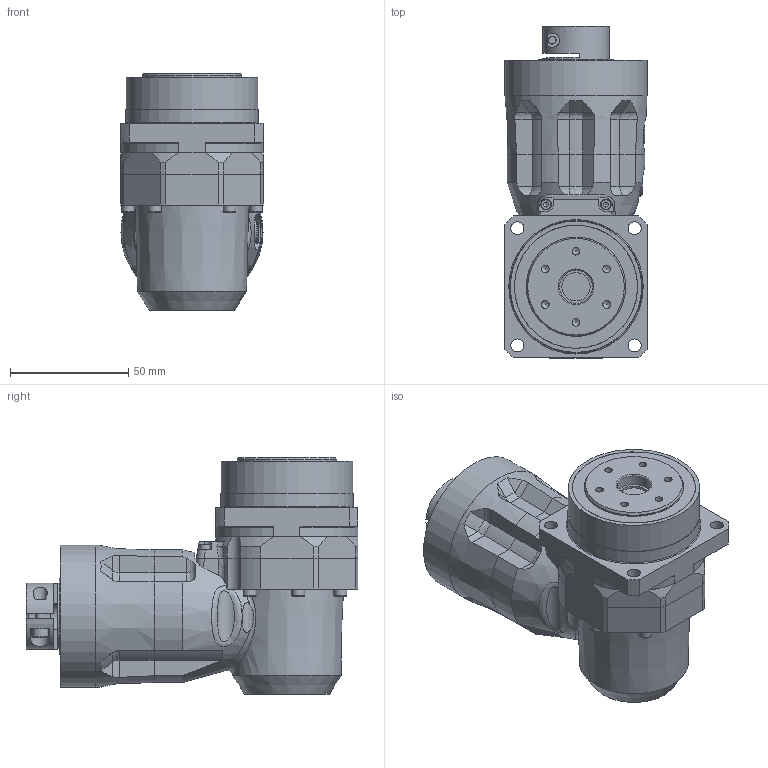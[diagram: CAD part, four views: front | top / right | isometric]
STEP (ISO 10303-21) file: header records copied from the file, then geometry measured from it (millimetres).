
FILE_DESCRIPTION(/* description */ ('ANFX-PK110F-2-E11G'),/* implementation_level */ '2;1');
FILE_NAME(/* name */ 'C:\Users\ADMINI~1\AppData\Local\Temp\MM582392_ANFX-PK110F-2-E11G.stp',/* time_stamp */ '2018-07-11T06:36:49+02:00',/* author */ ('Berger'),/* organization */ (''),/* preprocessor_version */ 'ST-DEVELOPER v17',/* originating_system */ 'Autodesk Inventor 2018',/* authorisation */ '');
FILE_SCHEMA (('AUTOMOTIVE_DESIGN { 1 0 10303 214 3 1 1 }'));
Length unit declared in the file: millimetre
Products named in the file (20): MMAZ15138; MMBG0004139; MMCL239LG; MMCL240LG; MAW8353G; MAX4839G; MMBG0004116; MMAF790LG; MAZ16117-5; MMBG0004105; MMCM057LG; MMAF787LG; 202119; MMAP6494G; 009M004R012NG; M531N20357---G; 211458; 212123; 213374; MMBG0002715
Assembly tree (41 placements, depth 3):
  MMAZ15138
    MMBG0004139
      MMCL239LG
      MMCL240LG
      MAW8353G
      MAX4839G
    MMBG0004116
      MMAF790LG
      MAZ16117-5  x10
    MMBG0004105
      MMCM057LG
      MMAF787LG
      202119
      MMAP6494G
      009M004R012NG
      M531N20357---G
      211458  x2
      212123  x8
      213374  x6
    MMBG0002715
Bounding box: 60 x 140.2 x 100 mm (x, y, z)
Volume: 249046.5 mm3; surface area: 121351.7 mm2
Topology: 106 solids, 107 shells, 995 faces, 2820 edges, 1976 vertices
Faces by surface type: plane 430, cylinder 259, cone 120, torus 74, sphere 68, bspline 44
Full cylindrical faces by diameter (mm): 2.013 x10, 2.459 x14, 2.5 x10, 2.9 x10, 3 x14, 3.242 x15, 3.4 x14, 4 x1, 4.5 x11, 5.5 x26, 7 x1, 8.566 x2, 11.5 x1, 12 x1, 14 x1, 15 x2, 17.5 x1, 19 x1, 19.4 x1, 19.6 x1, 20 x2, 20.5 x1, 24.2 x1, 27.5 x4, 28 x2, 30 x2, 31.5 x1, 32 x3, 35 x4, 36 x2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
Entity records: 24492 total; most frequent: CARTESIAN_POINT 5982, DIRECTION 3912, ORIENTED_EDGE 3504, EDGE_CURVE 1752, AXIS2_PLACEMENT_3D 1655, VERTEX_POINT 1344, CIRCLE 940, EDGE_LOOP 850
